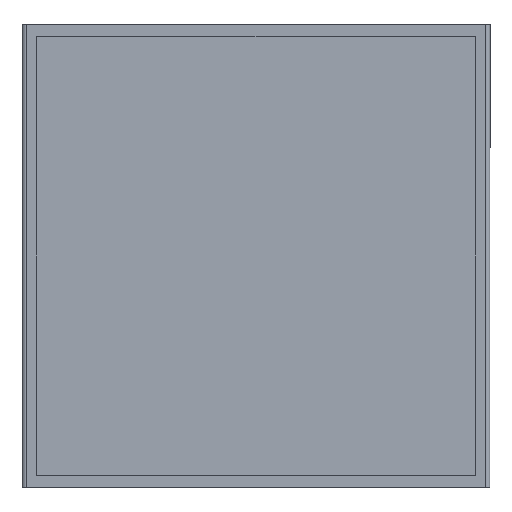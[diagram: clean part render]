
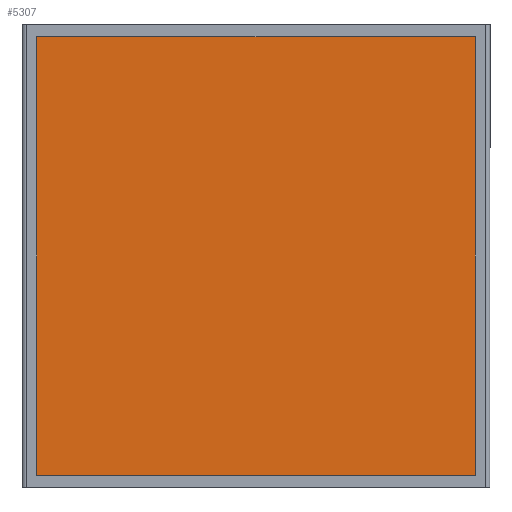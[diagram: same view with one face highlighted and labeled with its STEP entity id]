
A CAD part, front view. The second image highlights one B-rep face of the part: STEP entity #5307.
In plain terms, the highlighted planar face has unit normal (0, -1, 0).
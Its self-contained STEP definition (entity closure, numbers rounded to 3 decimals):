
#403 = EDGE_LOOP ( 'NONE', ( #1477, #4918, #3331, #2658 ) ) ;
#487 = VECTOR ( 'NONE', #4614, 1000. ) ;
#581 = PLANE ( 'NONE',  #4115 ) ;
#973 = CARTESIAN_POINT ( 'NONE',  ( 10.058, -2.335, -10.165 ) ) ;
#1007 = DIRECTION ( 'NONE',  ( 0., 0., 1. ) ) ;
#1336 = LINE ( 'NONE', #3122, #5095 ) ;
#1387 = CARTESIAN_POINT ( 'NONE',  ( 10.058, -2.335, 16.835 ) ) ;
#1413 = LINE ( 'NONE', #2755, #487 ) ;
#1477 = ORIENTED_EDGE ( 'NONE', *, *, #3127, .F. ) ;
#1495 = CARTESIAN_POINT ( 'NONE',  ( -16.942, -2.335, 16.835 ) ) ;
#1537 = VERTEX_POINT ( 'NONE', #1798 ) ;
#1772 = EDGE_CURVE ( 'NONE', #1537, #4734, #2832, .T. ) ;
#1798 = CARTESIAN_POINT ( 'NONE',  ( -16.942, -2.335, 16.835 ) ) ;
#1883 = VECTOR ( 'NONE', #5580, 1000. ) ;
#1917 = FACE_OUTER_BOUND ( 'NONE', #403, .T. ) ;
#2508 = DIRECTION ( 'NONE',  ( 1., 0., 0. ) ) ;
#2568 = VERTEX_POINT ( 'NONE', #973 ) ;
#2658 = ORIENTED_EDGE ( 'NONE', *, *, #1772, .F. ) ;
#2755 = CARTESIAN_POINT ( 'NONE',  ( -16.942, -2.335, -10.165 ) ) ;
#2832 = LINE ( 'NONE', #1495, #5055 ) ;
#2870 = LINE ( 'NONE', #5079, #1883 ) ;
#3024 = EDGE_CURVE ( 'NONE', #2568, #4374, #1336, .T. ) ;
#3122 = CARTESIAN_POINT ( 'NONE',  ( -16.942, -2.335, -10.165 ) ) ;
#3127 = EDGE_CURVE ( 'NONE', #4374, #1537, #1413, .T. ) ;
#3225 = CARTESIAN_POINT ( 'NONE',  ( -16.942, -2.335, 16.835 ) ) ;
#3331 = ORIENTED_EDGE ( 'NONE', *, *, #3600, .F. ) ;
#3600 = EDGE_CURVE ( 'NONE', #4734, #2568, #2870, .T. ) ;
#4115 = AXIS2_PLACEMENT_3D ( 'NONE', #3225, #5505, #1007 ) ;
#4128 = CARTESIAN_POINT ( 'NONE',  ( -16.942, -2.335, -10.165 ) ) ;
#4374 = VERTEX_POINT ( 'NONE', #4128 ) ;
#4614 = DIRECTION ( 'NONE',  ( 0., 0., 1. ) ) ;
#4734 = VERTEX_POINT ( 'NONE', #1387 ) ;
#4918 = ORIENTED_EDGE ( 'NONE', *, *, #3024, .F. ) ;
#4951 = DIRECTION ( 'NONE',  ( -1., 0., 0. ) ) ;
#5055 = VECTOR ( 'NONE', #2508, 1000. ) ;
#5079 = CARTESIAN_POINT ( 'NONE',  ( 10.058, -2.335, -10.165 ) ) ;
#5095 = VECTOR ( 'NONE', #4951, 1000. ) ;
#5307 = ADVANCED_FACE ( 'NONE', ( #1917 ), #581, .F. ) ;
#5505 = DIRECTION ( 'NONE',  ( 0., 1., 0. ) ) ;
#5580 = DIRECTION ( 'NONE',  ( 0., 0., -1. ) ) ;
